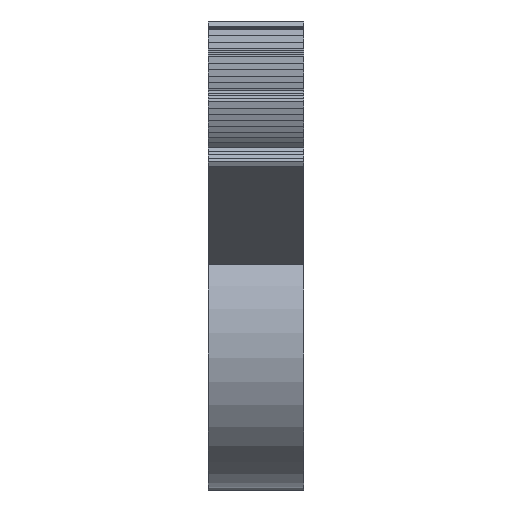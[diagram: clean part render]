
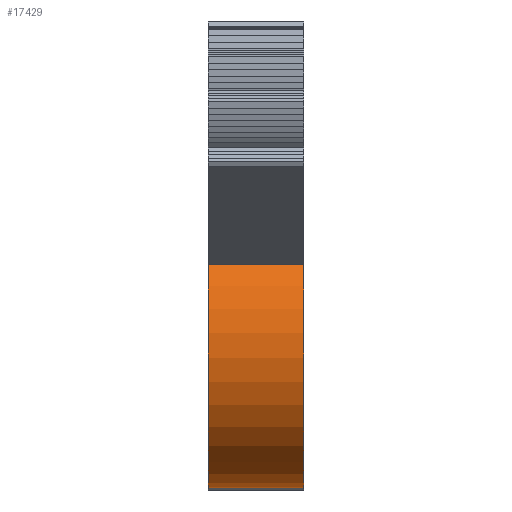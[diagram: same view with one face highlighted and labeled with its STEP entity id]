
A CAD part, front view. The second image highlights one B-rep face of the part: STEP entity #17429.
In plain terms, the highlighted cylindrical face has radius 12 mm (diameter 24 mm), a partial arc.
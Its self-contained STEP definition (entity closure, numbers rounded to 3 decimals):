
#72 = PLANE('',#73);
#73 = AXIS2_PLACEMENT_3D('',#74,#75,#76);
#74 = CARTESIAN_POINT('',(-39.,0.,0.));
#75 = DIRECTION('',(1.,0.,0.));
#76 = DIRECTION('',(0.,0.969,0.249));
#126 = PLANE('',#127);
#127 = AXIS2_PLACEMENT_3D('',#128,#129,#130);
#128 = CARTESIAN_POINT('',(-47.,0.,0.)
  );
#129 = DIRECTION('',(1.,0.,0.));
#130 = DIRECTION('',(0.,0.969,0.249));
#6900 = VERTEX_POINT('',#6901);
#6901 = CARTESIAN_POINT('',(-47.,-9.948,6.71));
#6915 = PLANE('',#6916);
#6916 = AXIS2_PLACEMENT_3D('',#6917,#6918,#6919);
#6917 = CARTESIAN_POINT('',(-47.,-33.162,22.368));
#6918 = DIRECTION('',(0.,0.559,0.829));
#6919 = DIRECTION('',(0.,0.829,-0.559));
#6927 = EDGE_CURVE('',#6900,#6928,#6930,.T.);
#6928 = VERTEX_POINT('',#6929);
#6929 = CARTESIAN_POINT('',(-47.,10.692,-5.448));
#6930 = SURFACE_CURVE('',#6931,(#6936,#6943),.PCURVE_S1.);
#6931 = CIRCLE('',#6932,12.);
#6932 = AXIS2_PLACEMENT_3D('',#6933,#6934,#6935);
#6933 = CARTESIAN_POINT('',(-47.,0.,0.));
#6934 = DIRECTION('',(1.,0.,0.));
#6935 = DIRECTION('',(0.,1.,0.));
#6936 = PCURVE('',#126,#6937);
#6937 = DEFINITIONAL_REPRESENTATION('',(#6938),#6942);
#6938 = CIRCLE('',#6939,12.);
#6939 = AXIS2_PLACEMENT_2D('',#6940,#6941);
#6940 = CARTESIAN_POINT('',(0.,0.));
#6941 = DIRECTION('',(0.969,-0.249));
#6942 = ( GEOMETRIC_REPRESENTATION_CONTEXT(2) 
PARAMETRIC_REPRESENTATION_CONTEXT() REPRESENTATION_CONTEXT('2D SPACE',''
  ) );
#6943 = PCURVE('',#6944,#6949);
#6944 = CYLINDRICAL_SURFACE('',#6945,12.);
#6945 = AXIS2_PLACEMENT_3D('',#6946,#6947,#6948);
#6946 = CARTESIAN_POINT('',(-47.,0.,0.));
#6947 = DIRECTION('',(-1.,-0.,-0.));
#6948 = DIRECTION('',(0.,1.,0.));
#6949 = DEFINITIONAL_REPRESENTATION('',(#6950),#6954);
#6950 = LINE('',#6951,#6952);
#6951 = CARTESIAN_POINT('',(-0.,0.));
#6952 = VECTOR('',#6953,1.);
#6953 = DIRECTION('',(-1.,0.));
#6954 = ( GEOMETRIC_REPRESENTATION_CONTEXT(2) 
PARAMETRIC_REPRESENTATION_CONTEXT() REPRESENTATION_CONTEXT('2D SPACE',''
  ) );
#6972 = PLANE('',#6973);
#6973 = AXIS2_PLACEMENT_3D('',#6974,#6975,#6976);
#6974 = CARTESIAN_POINT('',(-47.,0.,0.));
#6975 = DIRECTION('',(0.,0.454,0.891));
#6976 = DIRECTION('',(0.,0.891,-0.454));
#14183 = VERTEX_POINT('',#14184);
#14184 = CARTESIAN_POINT('',(-39.,-9.948,6.71));
#14205 = EDGE_CURVE('',#14183,#14206,#14208,.T.);
#14206 = VERTEX_POINT('',#14207);
#14207 = CARTESIAN_POINT('',(-39.,10.692,-5.448));
#14208 = SURFACE_CURVE('',#14209,(#14214,#14221),.PCURVE_S1.);
#14209 = CIRCLE('',#14210,12.);
#14210 = AXIS2_PLACEMENT_3D('',#14211,#14212,#14213);
#14211 = CARTESIAN_POINT('',(-39.,0.,0.));
#14212 = DIRECTION('',(1.,0.,0.));
#14213 = DIRECTION('',(0.,1.,0.));
#14214 = PCURVE('',#72,#14215);
#14215 = DEFINITIONAL_REPRESENTATION('',(#14216),#14220);
#14216 = CIRCLE('',#14217,12.);
#14217 = AXIS2_PLACEMENT_2D('',#14218,#14219);
#14218 = CARTESIAN_POINT('',(0.,0.));
#14219 = DIRECTION('',(0.969,-0.249));
#14220 = ( GEOMETRIC_REPRESENTATION_CONTEXT(2) 
PARAMETRIC_REPRESENTATION_CONTEXT() REPRESENTATION_CONTEXT('2D SPACE',''
  ) );
#14221 = PCURVE('',#6944,#14222);
#14222 = DEFINITIONAL_REPRESENTATION('',(#14223),#14227);
#14223 = LINE('',#14224,#14225);
#14224 = CARTESIAN_POINT('',(-0.,-8.));
#14225 = VECTOR('',#14226,1.);
#14226 = DIRECTION('',(-1.,0.));
#14227 = ( GEOMETRIC_REPRESENTATION_CONTEXT(2) 
PARAMETRIC_REPRESENTATION_CONTEXT() REPRESENTATION_CONTEXT('2D SPACE',''
  ) );
#17409 = EDGE_CURVE('',#14206,#6928,#17410,.T.);
#17410 = SURFACE_CURVE('',#17411,(#17415,#17421),.PCURVE_S1.);
#17411 = LINE('',#17412,#17413);
#17412 = CARTESIAN_POINT('',(-47.,10.692,-5.448));
#17413 = VECTOR('',#17414,1.);
#17414 = DIRECTION('',(-1.,-0.,-0.));
#17415 = PCURVE('',#6972,#17416);
#17416 = DEFINITIONAL_REPRESENTATION('',(#17417),#17420);
#17417 = B_SPLINE_CURVE_WITH_KNOTS('',1,(#17418,#17419),.UNSPECIFIED.,
  .F.,.F.,(2,2),(-8.,0.),.PIECEWISE_BEZIER_KNOTS.);
#17418 = CARTESIAN_POINT('',(12.,-8.));
#17419 = CARTESIAN_POINT('',(12.,0.));
#17420 = ( GEOMETRIC_REPRESENTATION_CONTEXT(2) 
PARAMETRIC_REPRESENTATION_CONTEXT() REPRESENTATION_CONTEXT('2D SPACE',''
  ) );
#17421 = PCURVE('',#6944,#17422);
#17422 = DEFINITIONAL_REPRESENTATION('',(#17423),#17426);
#17423 = B_SPLINE_CURVE_WITH_KNOTS('',1,(#17424,#17425),.UNSPECIFIED.,
  .F.,.F.,(2,2),(-8.,0.),.PIECEWISE_BEZIER_KNOTS.);
#17424 = CARTESIAN_POINT('',(-5.812,-8.));
#17425 = CARTESIAN_POINT('',(-5.812,0.));
#17426 = ( GEOMETRIC_REPRESENTATION_CONTEXT(2) 
PARAMETRIC_REPRESENTATION_CONTEXT() REPRESENTATION_CONTEXT('2D SPACE',''
  ) );
#17429 = ADVANCED_FACE('',(#17430),#6944,.T.);
#17430 = FACE_BOUND('',#17431,.F.);
#17431 = EDGE_LOOP('',(#17432,#17433,#17452,#17453));
#17432 = ORIENTED_EDGE('',*,*,#6927,.F.);
#17433 = ORIENTED_EDGE('',*,*,#17434,.F.);
#17434 = EDGE_CURVE('',#14183,#6900,#17435,.T.);
#17435 = SURFACE_CURVE('',#17436,(#17440,#17446),.PCURVE_S1.);
#17436 = LINE('',#17437,#17438);
#17437 = CARTESIAN_POINT('',(-47.,-9.948,6.71));
#17438 = VECTOR('',#17439,1.);
#17439 = DIRECTION('',(-1.,-0.,-0.));
#17440 = PCURVE('',#6944,#17441);
#17441 = DEFINITIONAL_REPRESENTATION('',(#17442),#17445);
#17442 = B_SPLINE_CURVE_WITH_KNOTS('',1,(#17443,#17444),.UNSPECIFIED.,
  .F.,.F.,(2,2),(-8.,0.),.PIECEWISE_BEZIER_KNOTS.);
#17443 = CARTESIAN_POINT('',(-2.548,-8.));
#17444 = CARTESIAN_POINT('',(-2.548,0.));
#17445 = ( GEOMETRIC_REPRESENTATION_CONTEXT(2) 
PARAMETRIC_REPRESENTATION_CONTEXT() REPRESENTATION_CONTEXT('2D SPACE',''
  ) );
#17446 = PCURVE('',#6915,#17447);
#17447 = DEFINITIONAL_REPRESENTATION('',(#17448),#17451);
#17448 = B_SPLINE_CURVE_WITH_KNOTS('',1,(#17449,#17450),.UNSPECIFIED.,
  .F.,.F.,(2,2),(-8.,0.),.PIECEWISE_BEZIER_KNOTS.);
#17449 = CARTESIAN_POINT('',(28.,-8.));
#17450 = CARTESIAN_POINT('',(28.,0.));
#17451 = ( GEOMETRIC_REPRESENTATION_CONTEXT(2) 
PARAMETRIC_REPRESENTATION_CONTEXT() REPRESENTATION_CONTEXT('2D SPACE',''
  ) );
#17452 = ORIENTED_EDGE('',*,*,#14205,.T.);
#17453 = ORIENTED_EDGE('',*,*,#17409,.T.);
